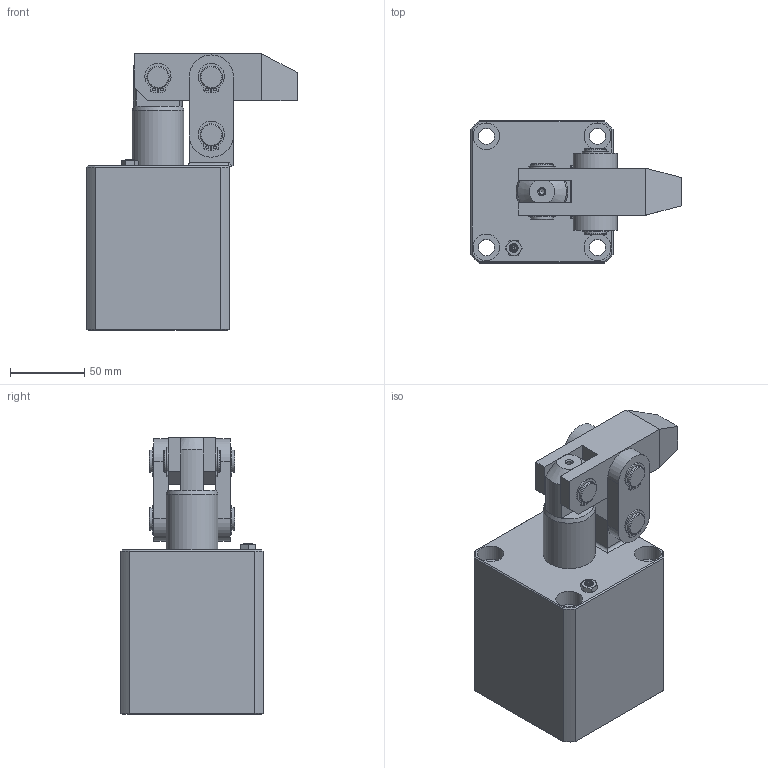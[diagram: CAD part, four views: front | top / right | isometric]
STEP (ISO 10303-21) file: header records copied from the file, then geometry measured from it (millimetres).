
FILE_DESCRIPTION(/* description */ ('Unknown'),/* implementation_level */ '2;1');
FILE_NAME(/* name */ 'HLC-MF63-A',/* time_stamp */ '2022-11-23T04:33:44+08:00',/* author */ ('Unknown'),/* organization */ ('Unknown'),/* preprocessor_version */ 'ST-DEVELOPER v16.7',/* originating_system */ 'DEX',/* authorisation */ $);
FILE_SCHEMA (('AUTOMOTIVE_DESIGN {1 0 10303 214 3 1 1}'));
Length unit declared in the file: millimetre
Products named in the file (8): HLC-MF63-A; HLC-MF63-CYLINDER; HLC-6302-AXLE CENTRE; HLC-63-A; HLC-63-墊; HLC-63-PINｵuｭ; HLC-63-PINªø-; HLC-63-C扣3
Assembly tree (14 placements, depth 2):
  HLC-MF63-A
    HLC-MF63-CYLINDER
    HLC-6302-AXLE CENTRE
    HLC-63-A
    HLC-63-墊  x2
    HLC-63-PINｵuｭ
    HLC-63-PINªø-  x2
    HLC-63-C扣3  x6
Bounding box: 142 x 96 x 186.8 mm (x, y, z)
Volume: 1057026.5 mm3; surface area: 159141.7 mm2
Topology: 14 solids, 14 shells, 290 faces, 672 edges, 436 vertices
Faces by surface type: plane 126, cylinder 122, cone 28, bspline 12, torus 2
Full cylindrical faces by diameter (mm): 2 x12, 4 x1, 5 x2, 6 x1, 11 x4, 12 x2, 14.15 x6, 15 x18, 18 x4, 35 x2, 62.4 x1, 63 x1
Entity records: 5367 total; most frequent: CARTESIAN_POINT 1183, DIRECTION 820, ORIENTED_EDGE 720, EDGE_CURVE 360, AXIS2_PLACEMENT_3D 338, FACE_BOUND 287, EDGE_LOOP 286, VERTEX_POINT 257
